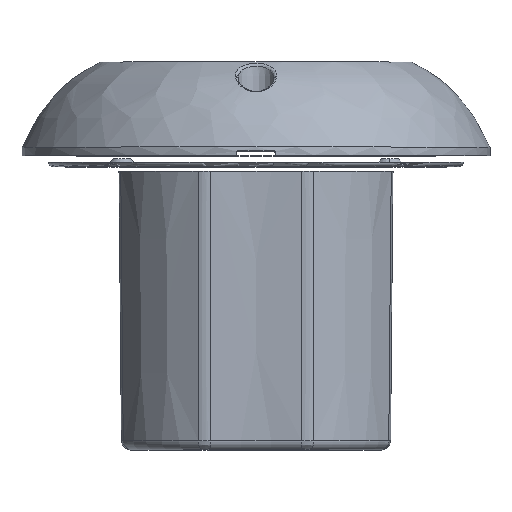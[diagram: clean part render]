
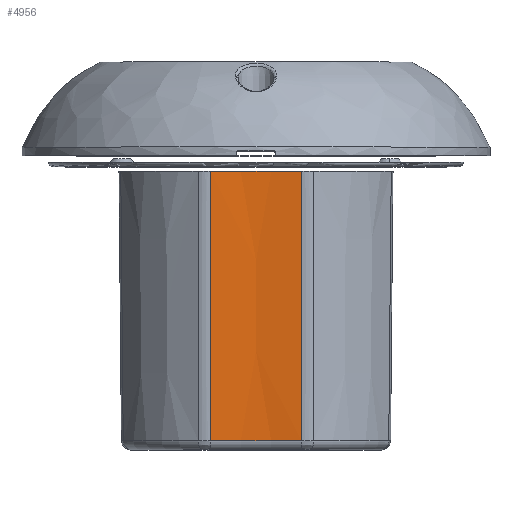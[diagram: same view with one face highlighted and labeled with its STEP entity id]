
A CAD part, top view. The second image highlights one B-rep face of the part: STEP entity #4956.
In plain terms, the highlighted conical face has half-angle 0.5 degrees and reference radius 68.573 mm.
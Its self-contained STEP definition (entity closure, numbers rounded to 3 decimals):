
#917=CARTESIAN_POINT('',(0.,-6.491,
98.221));
#918=DIRECTION('',(0.,-1.,0.));
#919=DIRECTION('',(-0.15,0.,-0.989));
#920=AXIS2_PLACEMENT_3D('',#917,#918,#919);
#922=CARTESIAN_POINT('',(10.245,-6.491,30.685));
#923=CARTESIAN_POINT('',(10.24,-11.107,30.644));
#924=CARTESIAN_POINT('',(10.231,-20.505,30.559));
#925=CARTESIAN_POINT('',(10.217,-34.929,30.43));
#926=CARTESIAN_POINT('',(10.201,-50.185,30.293));
#927=CARTESIAN_POINT('',(10.19,-61.274,30.194));
#928=CARTESIAN_POINT('',(10.184,-67.017,30.142));
#930=CARTESIAN_POINT('',(0.,-67.017,
98.221));
#931=DIRECTION('',(0.,-1.,0.));
#932=DIRECTION('',(-0.148,0.,-0.989));
#933=AXIS2_PLACEMENT_3D('',#930,#931,#932);
#935=CARTESIAN_POINT('',(-10.184,-67.017,30.142));
#936=CARTESIAN_POINT('',(-10.189,-62.401,30.183));
#937=CARTESIAN_POINT('',(-10.198,-53.001,30.268));
#938=CARTESIAN_POINT('',(-10.213,-38.563,30.397));
#939=CARTESIAN_POINT('',(-10.228,-23.305,30.534));
#940=CARTESIAN_POINT('',(-10.239,-12.227,30.634));
#941=CARTESIAN_POINT('',(-10.245,-6.491,30.685));
#1170=CARTESIAN_POINT('',(-10.245,-6.491,
30.685));
#1183=CARTESIAN_POINT('',(-10.184,-67.017,
30.142));
#3966=VERTEX_POINT('',#1183);
#3969=CARTESIAN_POINT('',(10.184,-67.017,30.142));
#3970=VERTEX_POINT('',#3969);
#4483=VERTEX_POINT('',#1170);
#4485=CARTESIAN_POINT('',(10.245,-6.491,30.685));
#4486=VERTEX_POINT('',#4485);
#4941=CARTESIAN_POINT('',(0.,-36.754,
98.221));
#4942=DIRECTION('',(0.,-1.,0.));
#4943=DIRECTION('',(0.,0.,-1.));
#4944=AXIS2_PLACEMENT_3D('',#4941,#4942,#4943);
#4945=CONICAL_SURFACE('',#4944,68.573,0.5);
#4947=ORIENTED_EDGE('',*,*,#4946,.T.);
#4949=ORIENTED_EDGE('',*,*,#4948,.T.);
#4951=ORIENTED_EDGE('',*,*,#4950,.F.);
#4953=ORIENTED_EDGE('',*,*,#4952,.T.);
#4954=EDGE_LOOP('',(#4947,#4949,#4951,#4953));
#4955=FACE_OUTER_BOUND('',#4954,.F.);
#4956=ADVANCED_FACE('',(#4955),#4945,.F.);
#921=CIRCLE('',#920,68.309);
#929=B_SPLINE_CURVE_WITH_KNOTS('',3,(#922,#923,#924,#925,#926,#927,#928),
.UNSPECIFIED.,.F.,.F.,(4,1,1,1,4),(0.,0.25,0.5,0.75,1.),
.UNSPECIFIED.);
#934=CIRCLE('',#933,68.837);
#942=B_SPLINE_CURVE_WITH_KNOTS('',3,(#935,#936,#937,#938,#939,#940,#941),
.UNSPECIFIED.,.F.,.F.,(4,1,1,1,4),(0.,0.25,0.5,0.75,1.),
.UNSPECIFIED.);
#4946=EDGE_CURVE('',#4483,#4486,#921,.T.);
#4948=EDGE_CURVE('',#4486,#3970,#929,.T.);
#4950=EDGE_CURVE('',#3966,#3970,#934,.T.);
#4952=EDGE_CURVE('',#3966,#4483,#942,.T.);
